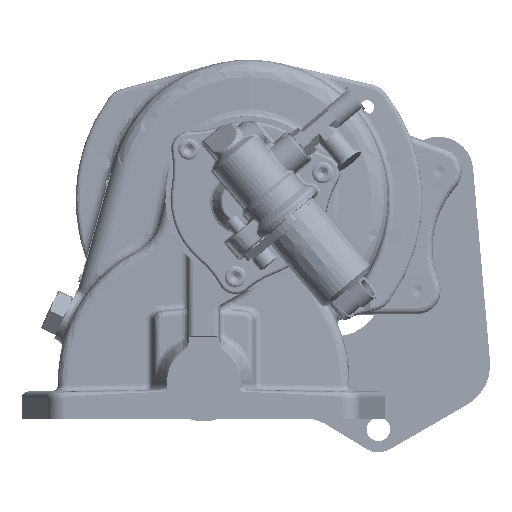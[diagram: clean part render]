
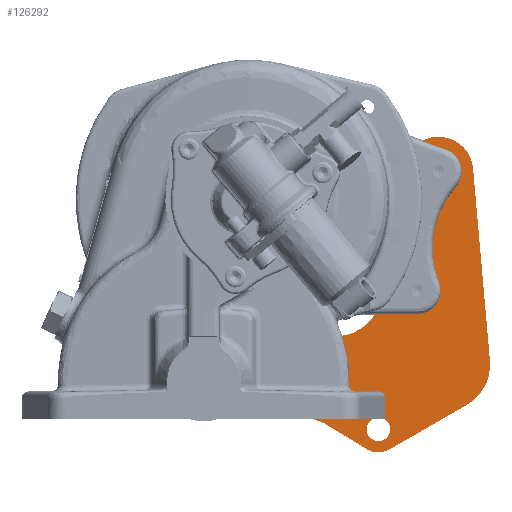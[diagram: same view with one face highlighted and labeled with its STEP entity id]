
A CAD part, left-side view. The second image highlights one B-rep face of the part: STEP entity #126292.
In plain terms, the highlighted planar face has unit normal (-1, 0, 0) as drawn and (0, 0, -1) by its records, which use the part's own axes.
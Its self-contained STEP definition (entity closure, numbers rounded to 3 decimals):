
#7327=CIRCLE('',#136063,1.);
#7328=CIRCLE('',#136066,0.5);
#7329=CIRCLE('',#136068,0.75);
#7330=CIRCLE('',#136070,0.256);
#7331=CIRCLE('',#136072,0.256);
#7332=CIRCLE('',#136074,0.256);
#7333=CIRCLE('',#136076,0.251);
#7334=CIRCLE('',#136078,0.251);
#7335=CIRCLE('',#136081,1.);
#7336=CIRCLE('',#136084,0.5);
#7337=CIRCLE('',#136086,5.897);
#10378=FACE_BOUND('',#25844,.T.);
#10379=FACE_BOUND('',#25845,.T.);
#10380=FACE_BOUND('',#25846,.T.);
#10381=FACE_BOUND('',#25847,.T.);
#10382=FACE_BOUND('',#25848,.T.);
#10383=FACE_BOUND('',#25849,.T.);
#25844=EDGE_LOOP('',(#112010));
#25845=EDGE_LOOP('',(#112011));
#25846=EDGE_LOOP('',(#112012));
#25847=EDGE_LOOP('',(#112013));
#25848=EDGE_LOOP('',(#112014));
#25849=EDGE_LOOP('',(#112015,#112016,#112017,#112018,#112019,#112020,#112021,
#112022,#112023,#112024));
#35029=LINE('',#283651,#44219);
#35033=LINE('',#283660,#44223);
#35038=LINE('',#283688,#44228);
#35041=LINE('',#283696,#44231);
#44219=VECTOR('',#164677,4.181);
#44223=VECTOR('',#164687,1.927);
#44228=VECTOR('',#164722,2.916);
#44231=VECTOR('',#164731,3.418);
#59255=VERTEX_POINT('',#283649);
#59256=VERTEX_POINT('',#283650);
#59257=VERTEX_POINT('',#283655);
#59258=VERTEX_POINT('',#283659);
#59259=VERTEX_POINT('',#283663);
#59260=VERTEX_POINT('',#283667);
#59261=VERTEX_POINT('',#283671);
#59262=VERTEX_POINT('',#283674);
#59263=VERTEX_POINT('',#283677);
#59264=VERTEX_POINT('',#283680);
#59265=VERTEX_POINT('',#283683);
#59266=VERTEX_POINT('',#283686);
#59267=VERTEX_POINT('',#283690);
#59268=VERTEX_POINT('',#283694);
#59269=VERTEX_POINT('',#283698);
#76831=EDGE_CURVE('',#59255,#59256,#35029,.T.);
#76834=EDGE_CURVE('',#59256,#59257,#7327,.T.);
#76836=EDGE_CURVE('',#59257,#59258,#35033,.T.);
#76838=EDGE_CURVE('',#59259,#59258,#7328,.T.);
#76841=EDGE_CURVE('',#59255,#59260,#7329,.T.);
#76842=EDGE_CURVE('',#59261,#59261,#7330,.T.);
#76843=EDGE_CURVE('',#59262,#59262,#7331,.T.);
#76844=EDGE_CURVE('',#59263,#59263,#7332,.T.);
#76845=EDGE_CURVE('',#59264,#59264,#7333,.T.);
#76846=EDGE_CURVE('',#59265,#59265,#7334,.T.);
#76848=EDGE_CURVE('',#59260,#59266,#35038,.T.);
#76850=EDGE_CURVE('',#59266,#59267,#7335,.T.);
#76852=EDGE_CURVE('',#59267,#59268,#35041,.T.);
#76854=EDGE_CURVE('',#59268,#59269,#7336,.T.);
#76855=EDGE_CURVE('',#59269,#59259,#7337,.T.);
#112010=ORIENTED_EDGE('',*,*,#76842,.T.);
#112011=ORIENTED_EDGE('',*,*,#76843,.T.);
#112012=ORIENTED_EDGE('',*,*,#76844,.T.);
#112013=ORIENTED_EDGE('',*,*,#76845,.T.);
#112014=ORIENTED_EDGE('',*,*,#76846,.T.);
#112015=ORIENTED_EDGE('',*,*,#76855,.T.);
#112016=ORIENTED_EDGE('',*,*,#76838,.T.);
#112017=ORIENTED_EDGE('',*,*,#76836,.F.);
#112018=ORIENTED_EDGE('',*,*,#76834,.F.);
#112019=ORIENTED_EDGE('',*,*,#76831,.F.);
#112020=ORIENTED_EDGE('',*,*,#76841,.T.);
#112021=ORIENTED_EDGE('',*,*,#76848,.T.);
#112022=ORIENTED_EDGE('',*,*,#76850,.T.);
#112023=ORIENTED_EDGE('',*,*,#76852,.T.);
#112024=ORIENTED_EDGE('',*,*,#76854,.T.);
#114819=PLANE('',#136088);
#126292=ADVANCED_FACE('',(#10378,#10379,#10380,#10381,#10382,#10383),#114819,
 .F.);
#136063=AXIS2_PLACEMENT_3D('',#283656,#164682,#164683);
#136066=AXIS2_PLACEMENT_3D('',#283664,#164691,#164692);
#136068=AXIS2_PLACEMENT_3D('',#283669,#164697,#164698);
#136070=AXIS2_PLACEMENT_3D('',#283672,#164701,#164702);
#136072=AXIS2_PLACEMENT_3D('',#283675,#164705,#164706);
#136074=AXIS2_PLACEMENT_3D('',#283678,#164709,#164710);
#136076=AXIS2_PLACEMENT_3D('',#283681,#164713,#164714);
#136078=AXIS2_PLACEMENT_3D('',#283684,#164717,#164718);
#136081=AXIS2_PLACEMENT_3D('',#283692,#164726,#164727);
#136084=AXIS2_PLACEMENT_3D('',#283700,#164735,#164736);
#136086=AXIS2_PLACEMENT_3D('',#283702,#164739,#164740);
#136088=AXIS2_PLACEMENT_3D('',#283704,#164743,#164744);
#164677=DIRECTION('',(-0.966,0.259,0.));
#164682=DIRECTION('center_axis',(0.,0.,1.));
#164683=DIRECTION('ref_axis',(0.259,0.966,0.));
#164687=DIRECTION('',(-0.643,-0.766,0.));
#164691=DIRECTION('center_axis',(0.,0.,-1.));
#164692=DIRECTION('ref_axis',(0.098,-0.995,0.));
#164697=DIRECTION('center_axis',(0.,0.,-1.));
#164698=DIRECTION('ref_axis',(0.,1.,0.));
#164701=DIRECTION('center_axis',(0.,0.,1.));
#164702=DIRECTION('ref_axis',(-1.,0.,0.));
#164705=DIRECTION('center_axis',(0.,0.,1.));
#164706=DIRECTION('ref_axis',(-1.,0.,0.));
#164709=DIRECTION('center_axis',(0.,0.,1.));
#164710=DIRECTION('ref_axis',(-1.,0.,0.));
#164713=DIRECTION('center_axis',(0.,0.,1.));
#164714=DIRECTION('ref_axis',(-1.,0.,0.));
#164717=DIRECTION('center_axis',(0.,0.,1.));
#164718=DIRECTION('ref_axis',(-1.,0.,0.));
#164722=DIRECTION('',(-1.,0.,0.));
#164726=DIRECTION('center_axis',(0.,0.,1.));
#164727=DIRECTION('ref_axis',(0.,1.,0.));
#164731=DIRECTION('',(-0.259,-0.966,0.));
#164735=DIRECTION('center_axis',(0.,0.,-1.));
#164736=DIRECTION('ref_axis',(0.971,-0.238,0.));
#164739=DIRECTION('center_axis',(0.,0.,1.));
#164740=DIRECTION('ref_axis',(0.971,-0.238,0.));
#164743=DIRECTION('center_axis',(0.,0.,1.));
#164744=DIRECTION('ref_axis',(1.,0.,0.));
#283649=CARTESIAN_POINT('',(2.819,0.724,0.));
#283650=CARTESIAN_POINT('',(-1.22,1.807,0.));
#283651=CARTESIAN_POINT('',(2.819,0.724,0.));
#283655=CARTESIAN_POINT('',(-2.245,1.484,0.));
#283656=CARTESIAN_POINT('Origin',(-1.479,0.841,0.));
#283659=CARTESIAN_POINT('',(-3.484,0.007,0.));
#283660=CARTESIAN_POINT('',(-2.245,1.484,0.));
#283663=CARTESIAN_POINT('',(-3.549,-0.535,0.));
#283664=CARTESIAN_POINT('Origin',(-3.101,-0.314,
0.));
#283667=CARTESIAN_POINT('',(2.625,-0.75,0.));
#283669=CARTESIAN_POINT('Origin',(2.625,0.,
0.));
#283671=CARTESIAN_POINT('',(-2.845,-0.314,0.));
#283672=CARTESIAN_POINT('Origin',(-3.101,-0.314,
0.));
#283674=CARTESIAN_POINT('',(-2.223,-2.447,0.));
#283675=CARTESIAN_POINT('Origin',(-2.479,-2.447,0.));
#283677=CARTESIAN_POINT('',(-2.369,-4.663,0.));
#283678=CARTESIAN_POINT('Origin',(-2.625,-4.663,0.));
#283680=CARTESIAN_POINT('',(0.251,0.,0.));
#283681=CARTESIAN_POINT('Origin',(0.,0.,0.));
#283683=CARTESIAN_POINT('',(2.875,0.,0.));
#283684=CARTESIAN_POINT('Origin',(2.625,0.,
0.));
#283686=CARTESIAN_POINT('',(-0.291,-0.75,0.));
#283688=CARTESIAN_POINT('',(2.625,-0.75,0.));
#283690=CARTESIAN_POINT('',(-1.257,-1.491,0.));
#283692=CARTESIAN_POINT('Origin',(-0.291,-1.75,0.));
#283694=CARTESIAN_POINT('',(-2.142,-4.792,0.));
#283696=CARTESIAN_POINT('',(-1.257,-1.491,0.));
#283698=CARTESIAN_POINT('',(-3.11,-4.544,0.));
#283700=CARTESIAN_POINT('Origin',(-2.625,-4.663,0.));
#283702=CARTESIAN_POINT('Origin',(-8.838,-3.143,0.));
#283704=CARTESIAN_POINT('Origin',(-0.812,-1.325,0.));
